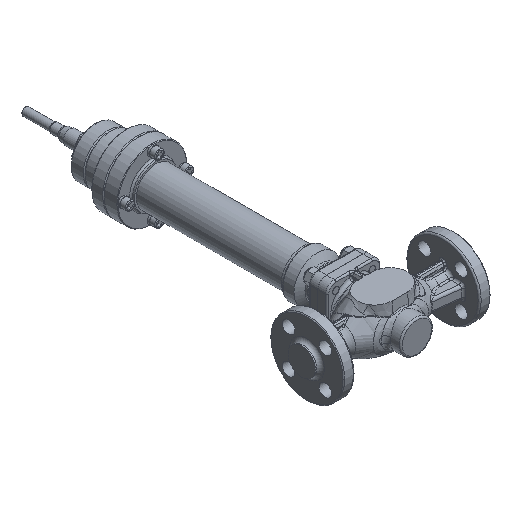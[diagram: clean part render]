
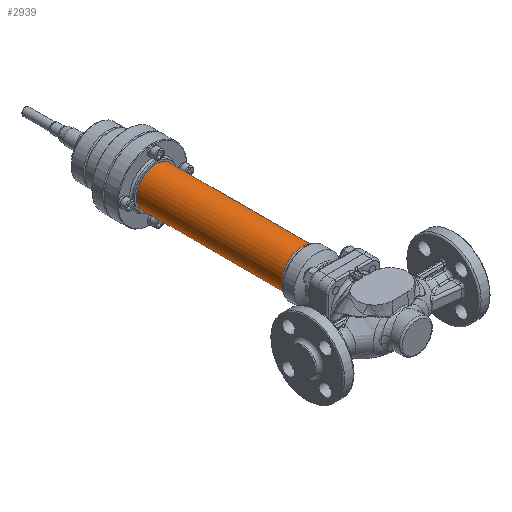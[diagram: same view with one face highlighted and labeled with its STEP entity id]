
A CAD part, isometric view. The second image highlights one B-rep face of the part: STEP entity #2939.
In plain terms, the highlighted cylindrical face has radius 25 mm (diameter 50 mm), a full revolution.
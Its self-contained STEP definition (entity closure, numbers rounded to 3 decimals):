
#1603=CYLINDRICAL_SURFACE('',#11127,25.);
#2939=ADVANCED_FACE('',(#3372,#3373),#1603,.T.);
#3372=FACE_BOUND('',#4242,.T.);
#3373=FACE_BOUND('',#4243,.T.);
#4242=EDGE_LOOP('',(#6983));
#4243=EDGE_LOOP('',(#6984));
#6983=ORIENTED_EDGE('',*,*,#9157,.F.);
#6984=ORIENTED_EDGE('',*,*,#9283,.T.);
#7829=VERTEX_POINT('',#20870);
#7917=VERTEX_POINT('',#21273);
#9157=EDGE_CURVE('',#7829,#7829,#9905,.T.);
#9283=EDGE_CURVE('',#7917,#7917,#9945,.T.);
#9905=CIRCLE('',#10968,25.);
#9945=CIRCLE('',#11073,25.);
#10968=AXIS2_PLACEMENT_3D('',#20869,#13387,#13388);
#11073=AXIS2_PLACEMENT_3D('',#21272,#13667,#13668);
#11127=AXIS2_PLACEMENT_3D('',#21435,#13783,#13784);
#13387=DIRECTION('',(0.,-1.,0.));
#13388=DIRECTION('',(1.,0.,0.));
#13667=DIRECTION('',(0.,-1.,0.));
#13668=DIRECTION('',(1.,0.,0.));
#13783=DIRECTION('',(0.,1.,0.));
#13784=DIRECTION('',(1.,0.,0.));
#20869=CARTESIAN_POINT('',(0.,96.,0.));
#20870=CARTESIAN_POINT('',(25.,96.,0.));
#21272=CARTESIAN_POINT('',(0.,294.,0.));
#21273=CARTESIAN_POINT('',(25.,294.,0.));
#21435=CARTESIAN_POINT('',(0.,88.,0.));
